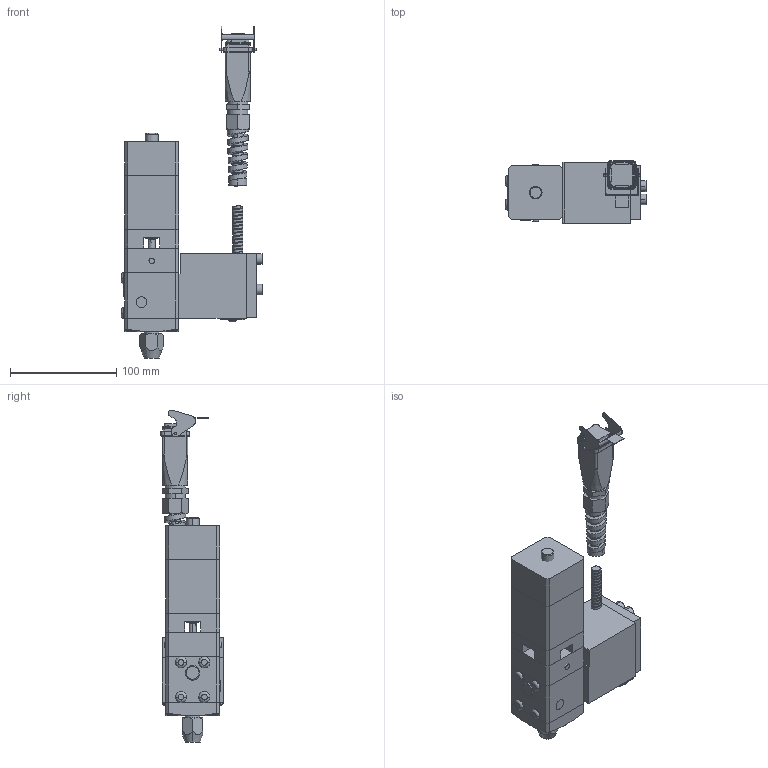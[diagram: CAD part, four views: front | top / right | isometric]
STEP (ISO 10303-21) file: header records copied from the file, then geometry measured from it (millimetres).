
FILE_DESCRIPTION((''),'2;1');
FILE_NAME('244909-EN-L_PRT','2019-12-31T16:42:25',('qusrh3'),(''),'CREO PARAMETRIC BY PTC INC, 2019030','CREO PARAMETRIC BY PTC INC, 2019030','');
FILE_SCHEMA(('CONFIG_CONTROL_DESIGN'));
Length unit declared in the file: inch
Products named in the file (1): 244909-EN-L_PRT
Bounding box: 133.03 x 58.38 x 312.04 mm (x, y, z)
Surface area: 115976.9 mm2 (no closed solid volume)
Topology: 0 solids, 60 shells, 494 faces, 1332 edges, 884 vertices
Faces by surface type: plane 216, cylinder 166, cone 40, bspline 33, torus 32, sphere 7
Entity records: 28422 total; most frequent: CARTESIAN_POINT 16319, DIRECTION 2554, ORIENTED_EDGE 2285, EDGE_CURVE 1332, AXIS2_PLACEMENT_3D 901, VERTEX_POINT 884, VECTOR 752, LINE 752
